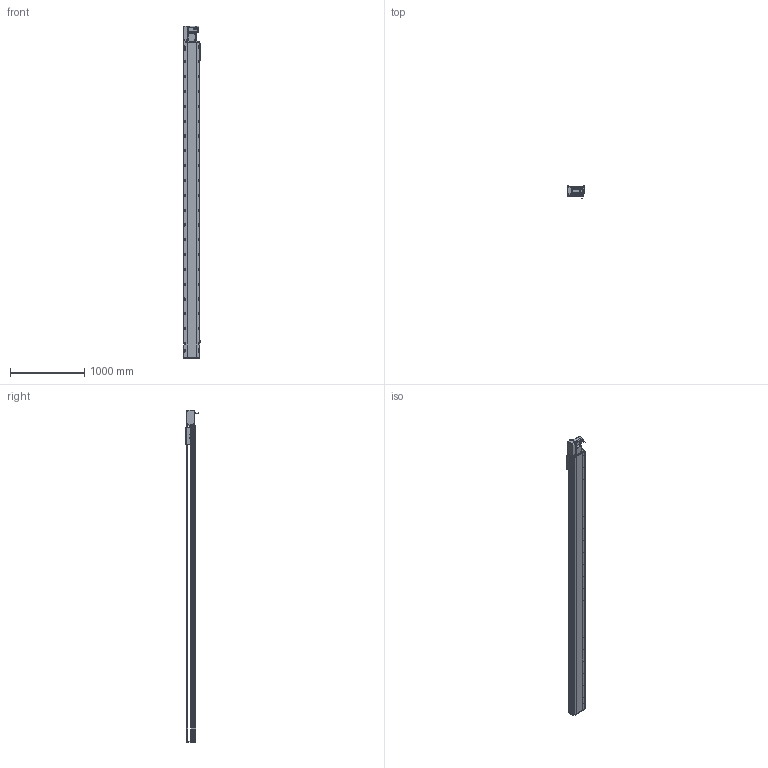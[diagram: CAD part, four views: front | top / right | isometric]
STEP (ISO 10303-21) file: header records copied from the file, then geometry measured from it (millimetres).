
FILE_DESCRIPTION (( 'STEP AP214' ), '1' );
FILE_NAME ('RTB22S-XX-3900-L-M75-C4.STEP', '2025-12-12T03:38:38', ( '' ), ( '' ), 'SwSTEP 2.0', 'SolidWorks 2018', '' );
FILE_SCHEMA (( 'AUTOMOTIVE_DESIGN' ));
Length unit declared in the file: millimetre
Products named in the file (14): RTB22S-GY-018P^RTB22S-L-々湍釱蚾饜_RTB22S-XX-XX-L-M75-C4; RTB22S-L-011菁釱^RTB22S-XX-XX-L-M75-C4; RTB22S-GY-007奻裔^RTB22S-XX-XX-L-M75-C4; RTB22S-GY-017P^RTB22S-L-々湍釱蚾饜_RTB22S-XX-XX-L-M75-C4; RTB22S-XX-3900-L-M75-C4; RTB22S-L-々湍釱蚾饜^RTB22S-XX-XX-L-M75-C4; RTB22S-GY-014--々湍釱^RTB22S-L-々湍釱蚾饜_RTB22S-XX-XX-L-M75-C4; RTB22S-GY-008-M75--萇儂啣^RTB22S-L-々湍釱蚾饜_RTB22S-XX-XX-L-M75-C4; RTH22-GY-013外置感应片^RTB22S-XX-XX-L-M75-C4; RTB22S-L-004賑釱^RTB22S-XX-XX-L-M75-C4; 750W萇儂^RTB22S-XX-XX-L-M75-C4; RTB22S-GY-005P^RTB22S-L-々湍釱蚾饜_RTB22S-XX-XX-L-M75-C4; RTB22S-GY-001耜裔^RTB22S-XX-XX-L-M75-C4; OMRON EE-SX672 传感器^RTB22S-XX-XX-L-M75-C4
Assembly tree (16 placements, depth 3):
  RTB22S-XX-3900-L-M75-C4
    RTB22S-L-011菁釱^RTB22S-XX-XX-L-M75-C4
    750W萇儂^RTB22S-XX-XX-L-M75-C4
    RTB22S-L-004賑釱^RTB22S-XX-XX-L-M75-C4
    OMRON EE-SX672 传感器^RTB22S-XX-XX-L-M75-C4  x3
    RTH22-GY-013外置感应片^RTB22S-XX-XX-L-M75-C4
    RTB22S-GY-007奻裔^RTB22S-XX-XX-L-M75-C4
    RTB22S-GY-001耜裔^RTB22S-XX-XX-L-M75-C4
    RTB22S-L-々湍釱蚾饜^RTB22S-XX-XX-L-M75-C4
      RTB22S-GY-014--々湍釱^RTB22S-L-々湍釱蚾饜_RTB22S-XX-XX-L-M75-C4
      RTB22S-GY-017P^RTB22S-L-々湍釱蚾饜_RTB22S-XX-XX-L-M75-C4  x2
      RTB22S-GY-005P^RTB22S-L-々湍釱蚾饜_RTB22S-XX-XX-L-M75-C4
      RTB22S-GY-008-M75--萇儂啣^RTB22S-L-々湍釱蚾饜_RTB22S-XX-XX-L-M75-C4
      RTB22S-GY-018P^RTB22S-L-々湍釱蚾饜_RTB22S-XX-XX-L-M75-C4
Bounding box: 238.5 x 162.7 x 4479 mm (x, y, z)
Volume: 55072423.1 mm3; surface area: 5595355.7 mm2
Topology: 15 solids, 15 shells, 2235 faces, 6086 edges, 3872 vertices
Faces by surface type: plane 943, cylinder 790, bspline 296, cone 194, sphere 8, torus 4
Entity records: 61980 total; most frequent: CARTESIAN_POINT 17244, ORIENTED_EDGE 8848, DIRECTION 8758, EDGE_CURVE 4424, AXIS2_PLACEMENT_3D 3182, VERTEX_POINT 2876, LINE 2394, VECTOR 2394
